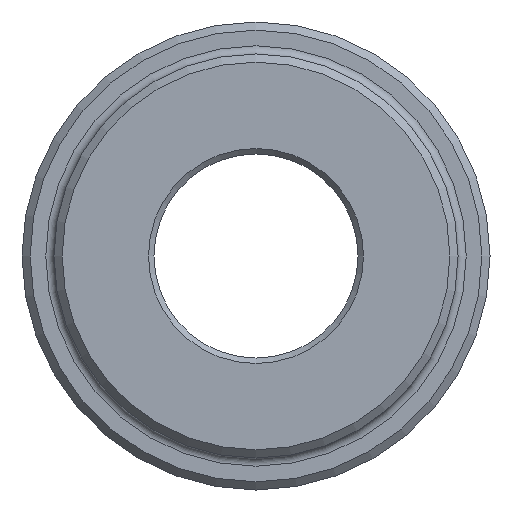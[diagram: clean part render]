
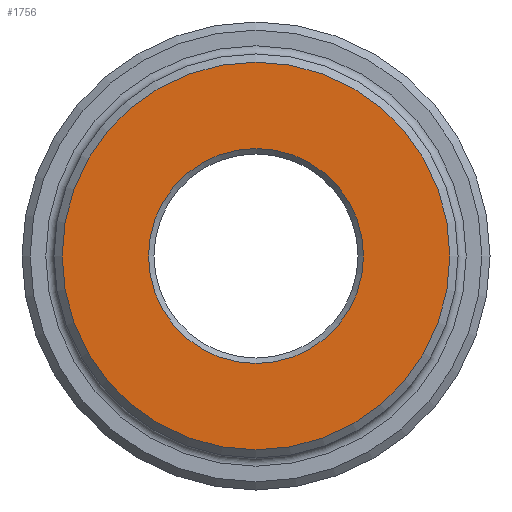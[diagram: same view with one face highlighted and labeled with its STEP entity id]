
A CAD part, left-side view. The second image highlights one B-rep face of the part: STEP entity #1756.
In plain terms, the highlighted planar face has unit normal (-1, 0, 0).
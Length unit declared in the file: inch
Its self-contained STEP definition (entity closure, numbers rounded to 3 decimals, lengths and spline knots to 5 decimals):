
#39 = CIRCLE ( 'NONE', #299, 0.79025 ) ;
#120 = EDGE_CURVE ( 'NONE', #1764, #1764, #39, .T. ) ;
#152 = DIRECTION ( 'NONE',  ( -1., 0., 0. ) ) ;
#162 = CARTESIAN_POINT ( 'NONE',  ( 0., 0., -0.79025 ) ) ;
#230 = EDGE_CURVE ( 'NONE', #340, #340, #1711, .T. ) ;
#264 = DIRECTION ( 'NONE',  ( 1., 0., 0. ) ) ;
#291 = CARTESIAN_POINT ( 'NONE',  ( 0., 0., 0. ) ) ;
#299 = AXIS2_PLACEMENT_3D ( 'NONE', #700, #1007, #1429 ) ;
#340 = VERTEX_POINT ( 'NONE', #963 ) ;
#400 = EDGE_LOOP ( 'NONE', ( #1185 ) ) ;
#524 = FACE_BOUND ( 'NONE', #798, .T. ) ;
#700 = CARTESIAN_POINT ( 'NONE',  ( 0., 0., 0. ) ) ;
#798 = EDGE_LOOP ( 'NONE', ( #1414 ) ) ;
#917 = DIRECTION ( 'NONE',  ( 0., 0., -1. ) ) ;
#963 = CARTESIAN_POINT ( 'NONE',  ( 0., 0., -1.425 ) ) ;
#979 = CARTESIAN_POINT ( 'NONE',  ( 0., 0., 0. ) ) ;
#1007 = DIRECTION ( 'NONE',  ( 1., 0., 0. ) ) ;
#1068 = PLANE ( 'NONE',  #1807 ) ;
#1154 = FACE_OUTER_BOUND ( 'NONE', #400, .T. ) ;
#1185 = ORIENTED_EDGE ( 'NONE', *, *, #230, .T. ) ;
#1414 = ORIENTED_EDGE ( 'NONE', *, *, #120, .T. ) ;
#1429 = DIRECTION ( 'NONE',  ( 0., 0., -1. ) ) ;
#1587 = AXIS2_PLACEMENT_3D ( 'NONE', #979, #152, #917 ) ;
#1602 = DIRECTION ( 'NONE',  ( 0., 0., -1. ) ) ;
#1711 = CIRCLE ( 'NONE', #1587, 1.425 ) ;
#1756 = ADVANCED_FACE ( 'NONE', ( #524, #1154 ), #1068, .F. ) ;
#1764 = VERTEX_POINT ( 'NONE', #162 ) ;
#1807 = AXIS2_PLACEMENT_3D ( 'NONE', #291, #264, #1602 ) ;
